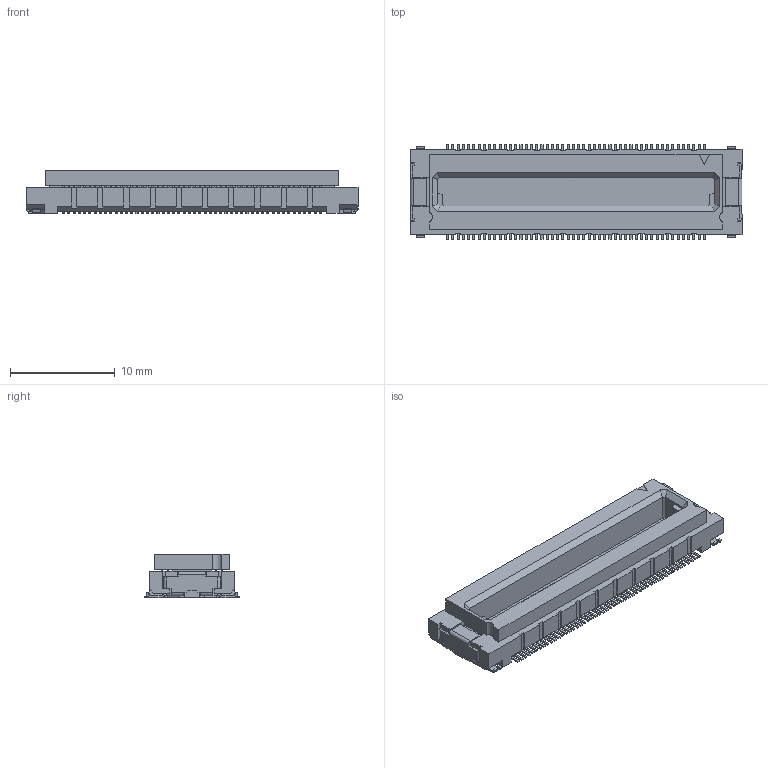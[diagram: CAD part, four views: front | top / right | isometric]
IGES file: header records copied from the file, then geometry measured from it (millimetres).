
Start section: Elysium IGES Interface
Global section: file name: 130HG:\その他\DY関連\CAD\（作り直し）Webリニューアル対応\DY00-XXXS     _(STEP／IGES形式_回覧No.56-36-0002)\①IGES\P39563_DY00-100S.igs; native system: Creo Elements/Direct Modeling 19.0F  14-Feb-2017; preprocessor: Creo Element/Direct IGES_3D V2.2; author: Unknown; organization: Unknown; date: 20170810.141834; units: millimetre
Bounding box: 31.7 x 9 x 4.2 mm (x, y, z)
Volume: 662 mm3; surface area: 1429.8 mm2
Topology: 1 solids, 1 shells, 3049 faces, 8523 edges, 5678 vertices
Faces by surface type: bspline 3049
